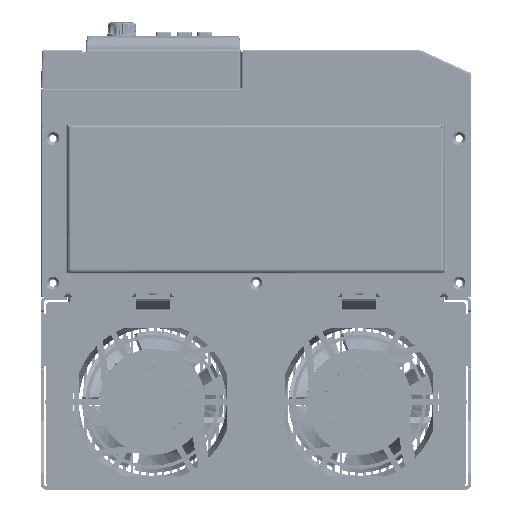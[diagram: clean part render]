
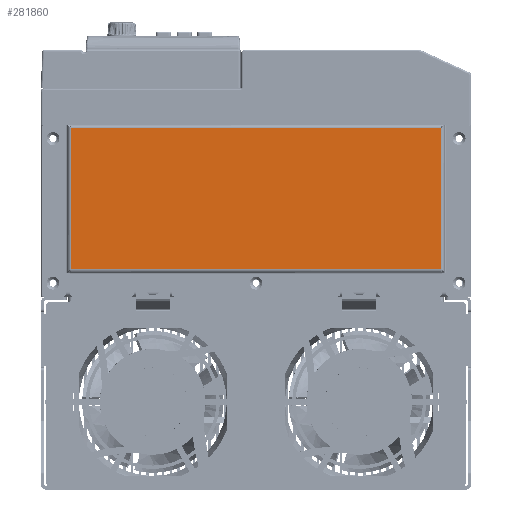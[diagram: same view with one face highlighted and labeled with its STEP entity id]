
A CAD part, front view. The second image highlights one B-rep face of the part: STEP entity #281860.
In plain terms, the highlighted planar face has unit normal (0, -1, 0).
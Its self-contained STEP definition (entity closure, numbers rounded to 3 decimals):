
#262860=CARTESIAN_POINT('',(41.,0.,-107.5));
#262865=DIRECTION('',(0.,0.,1.));
#262866=VECTOR('',#262865,215.);
#262867=CARTESIAN_POINT('',(41.,0.,-107.5));
#262868=LINE('',#262867,#262866);
#265529=DIRECTION('',(-1.,0.,0.));
#265530=VECTOR('',#265529,82.);
#265531=CARTESIAN_POINT('',(41.,0.,107.5));
#265532=LINE('',#265531,#265530);
#267510=DIRECTION('',(0.,0.,-1.));
#267511=VECTOR('',#267510,215.);
#267512=CARTESIAN_POINT('',(-41.,0.,107.5));
#267513=LINE('',#267512,#267511);
#273368=DIRECTION('',(1.,0.,0.));
#273369=VECTOR('',#273368,82.);
#273370=CARTESIAN_POINT('',(-41.,0.,-107.5));
#273371=LINE('',#273370,#273369);
#276349=VERTEX_POINT('',#262860);
#276350=CARTESIAN_POINT('',(41.,0.,107.5));
#276351=VERTEX_POINT('',#276350);
#277207=CARTESIAN_POINT('',(-41.,0.,107.5));
#277208=VERTEX_POINT('',#277207);
#277559=CARTESIAN_POINT('',(-41.,0.,-107.5));
#277560=VERTEX_POINT('',#277559);
#281847=CARTESIAN_POINT('',(-43.,0.,109.5));
#281848=DIRECTION('',(0.,-1.,0.));
#281849=DIRECTION('',(0.,0.,-1.));
#281850=AXIS2_PLACEMENT_3D('',#281847,#281848,#281849);
#281851=PLANE('',#281850);
#281853=ORIENTED_EDGE('',*,*,#281852,.F.);
#281854=ORIENTED_EDGE('',*,*,#280221,.F.);
#281855=ORIENTED_EDGE('',*,*,#278738,.F.);
#281857=ORIENTED_EDGE('',*,*,#281856,.F.);
#281858=EDGE_LOOP('',(#281853,#281854,#281855,#281857));
#281859=FACE_OUTER_BOUND('',#281858,.F.);
#278738=EDGE_CURVE('',#276349,#276351,#262868,.T.);
#280221=EDGE_CURVE('',#276351,#277208,#265532,.T.);
#281852=EDGE_CURVE('',#277208,#277560,#267513,.T.);
#281856=EDGE_CURVE('',#277560,#276349,#273371,.T.);
#281860=ADVANCED_FACE('',(#281859),#281851,.T.);
